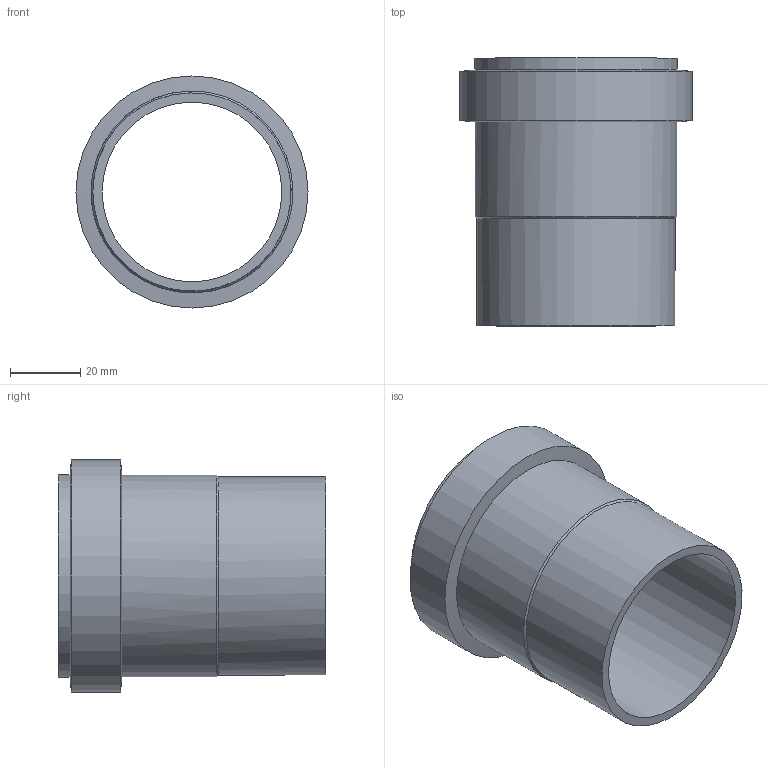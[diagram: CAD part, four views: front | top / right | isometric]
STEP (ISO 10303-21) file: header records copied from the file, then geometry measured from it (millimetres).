
FILE_DESCRIPTION(/* description */ (''),/* implementation_level */ '2;1');
FILE_NAME(/* name */ 'C:\Planerdaten\Export PLA\305.040.14.3\stp\305040.stp',/* time_stamp */ '2019-10-04T07:32:11+02:00',/* author */ ('JANAN'),/* organization */ (''),/* preprocessor_version */ 'ST-DEVELOPER v16.13',/* originating_system */ 'Autodesk Inventor 2018',/* authorisation */ '');
FILE_SCHEMA (('AUTOMOTIVE_DESIGN { 1 0 10303 214 3 1 1 }'));
Length unit declared in the file: millimetre
Products named in the file (1): Anschlusssteckmuffe PE-S2 d56/di50 L7.6
Bounding box: 65.85 x 76 x 65.85 mm (x, y, z)
Volume: 49759.1 mm3; surface area: 28676.8 mm2
Topology: 1 solids, 1 shells, 10 faces, 21 edges, 13 vertices
Faces by surface type: cylinder 5, cone 3, plane 2
Full cylindrical faces by diameter (mm): 51 x1, 56.25 x1, 57.3 x1, 57.4 x1, 65.85 x1
Entity records: 264 total; most frequent: DIRECTION 42, CARTESIAN_POINT 31, AXIS2_PLACEMENT_3D 21, EDGE_LOOP 20, ORIENTED_EDGE 20, STYLED_ITEM 11, FACE_BOUND 10, FACE_OUTER_BOUND 10
